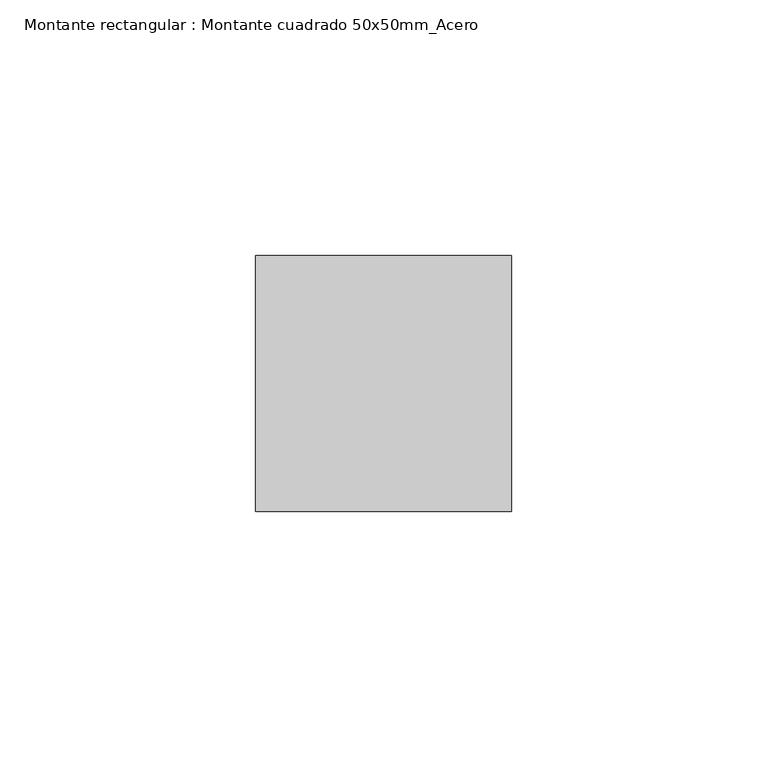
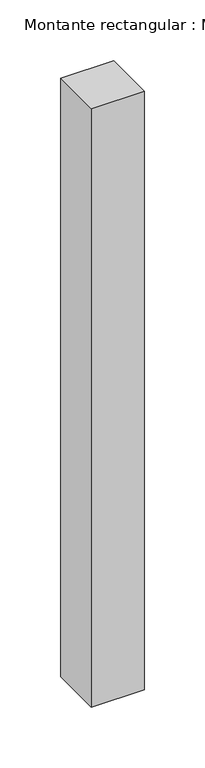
"""IFC4 building model written with IfcOpenShell, lengths in millimetres: member geometry, Montante rectangular : Montante cuadrado 50x50mm_Acero."""

import ifcopenshell
import ifcopenshell.guid

model = None  # the IFC model being written
_history = None  # IfcOwnerHistory: only IFC2X3 demands one
_inside = {}  # id of a spatial element -> (the spatial element, [elements in it])
_under = {}  # id of a project, library or spatial element -> (it, [spatial elements below it])
_declared = {}  # id of a project -> (the project, [libraries it declares])
_typed = {}  # id of a type object -> (the type object, [elements of that type])
_made_of = {}  # id of a material, layer set ... -> (it, [elements and type objects made of it])


def new_model(schema):
    """Start an empty IFC model of exactly this schema.

    Asked for "IFC4X3", IfcOpenShell would pick the latest addendum, in which some entities
    have other attributes; the version numbers below select the first issue.
    IFC2X3 requires an IfcOwnerHistory on every rooted entity: one is made here for all.
    """
    global model, _history
    if schema == "IFC4X3":
        model = ifcopenshell.file(schema_version=(4, 3, 0, 0))
    else:
        model = ifcopenshell.file(schema=schema)
    _inside.clear()
    _under.clear()
    _declared.clear()
    _typed.clear()
    _made_of.clear()
    _history = None
    if model.schema == "IFC2X3":
        org = make("IfcOrganization", Name="unknown")
        user = make(
            "IfcPersonAndOrganization",
            ThePerson=make("IfcPerson", FamilyName="unknown"),
            TheOrganization=org,
        )
        app = make(
            "IfcApplication",
            ApplicationDeveloper=org,
            Version="unknown",
            ApplicationFullName="unknown",
            ApplicationIdentifier="unknown",
        )
        _history = make(
            "IfcOwnerHistory",
            OwningUser=user,
            OwningApplication=app,
            ChangeAction="ADDED",
            CreationDate=0,
        )
    return model


def make(cls, **values):
    """One entity of the class cls with the attributes given. An attribute that is None is left unset."""
    return model.create_entity(
        cls, **{name: value for name, value in values.items() if value is not None}
    )


def rooted(cls, **values):
    """An entity with a GlobalId (a new one), such as an element, a storey or a relation."""
    return make(cls, GlobalId=ifcopenshell.guid.new(), OwnerHistory=_history, **values)


def si_unit(unit_type, name, prefix=None):
    """IfcSIUnit, for example si_unit("LENGTHUNIT", "METRE", prefix="MILLI")."""
    return make("IfcSIUnit", UnitType=unit_type, Prefix=prefix, Name=name)


def assignment(units):
    """IfcUnitAssignment: the units of a project."""
    return None if units is None else make("IfcUnitAssignment", Units=units)


def point(xyz):
    """IfcCartesianPoint."""
    return None if xyz is None else make("IfcCartesianPoint", Coordinates=xyz)


def direction(xyz):
    """IfcDirection."""
    return None if xyz is None else make("IfcDirection", DirectionRatios=xyz)


def frame(location, z_axis=None, x_axis=None):
    """IfcAxis2Placement3D, a coordinate frame: its origin and axes. An axis left out is left unset."""
    return make(
        "IfcAxis2Placement3D",
        Location=point(location),
        Axis=direction(z_axis),
        RefDirection=direction(x_axis),
    )


def origin():
    """The frame at (0, 0, 0) with its axes left unset."""
    return frame((0.0, 0.0, 0.0))


def place(relative_to, where):
    """IfcLocalPlacement: puts the frame where relative to a parent placement (None: the world)."""
    return make(
        "IfcLocalPlacement", PlacementRelTo=relative_to, RelativePlacement=where
    )


def context(
    kind, dimensions, precision=None, world=None, true_north=None, identifier=None
):
    """IfcGeometricRepresentationContext, for example the 3D "Model" context."""
    return make(
        "IfcGeometricRepresentationContext",
        ContextIdentifier=identifier,
        ContextType=kind,
        CoordinateSpaceDimension=dimensions,
        Precision=precision,
        WorldCoordinateSystem=world,
        TrueNorth=true_north,
    )


def project(units=None, contexts=None):
    """IfcProject with its units and contexts."""
    return rooted(
        "IfcProject",
        Name="project",
        RepresentationContexts=contexts,
        UnitsInContext=assignment(units),
    )


def spatial(cls, under=None, at=None, **own):
    """A site, building, storey or space (cls), placed at a placement, below another one or the project."""
    s = rooted(cls, ObjectPlacement=at, **own)
    if under is not None:
        _under.setdefault(under.id(), (under, []))[1].append(s)
    return s


def polyline(points):
    """IfcPolyline through the points."""
    return make("IfcPolyline", Points=[point(p) for p in points])


def outline(outer, holes=None, kind="AREA"):
    """IfcArbitraryClosedProfileDef: a profile drawn as a closed curve; with holes, ...WithVoids."""
    if holes is None:
        return make("IfcArbitraryClosedProfileDef", ProfileType=kind, OuterCurve=outer)
    return make(
        "IfcArbitraryProfileDefWithVoids",
        ProfileType=kind,
        OuterCurve=outer,
        InnerCurves=holes,
    )


def extrude(swept, where, along, depth):
    """IfcExtrudedAreaSolid: the profile swept, set in the frame where, extruded along a direction by depth."""
    return make(
        "IfcExtrudedAreaSolid",
        SweptArea=swept,
        Position=where,
        ExtrudedDirection=direction(along),
        Depth=depth,
    )


def shape(context_of_items, identifier, shape_type, items):
    """IfcShapeRepresentation: the items that make up one representation, for example the "Body"."""
    return make(
        "IfcShapeRepresentation",
        ContextOfItems=context_of_items,
        RepresentationIdentifier=identifier,
        RepresentationType=shape_type,
        Items=items,
    )


def source(mapping_origin, context_of_items, identifier, shape_type, items):
    """IfcRepresentationMap: a shape defined once, which mapped items show again and again."""
    return make(
        "IfcRepresentationMap",
        MappingOrigin=mapping_origin,
        MappedRepresentation=shape(context_of_items, identifier, shape_type, items),
    )


def transform(
    local_origin,
    x_axis=None,
    y_axis=None,
    z_axis=None,
    scale=None,
    scale2=None,
    scale3=None,
    uniform=True,
):
    """IfcCartesianTransformationOperator3D, or its non-uniform kind. x_axis, y_axis, z_axis: its Axis1, 2, 3."""
    if uniform:
        return make(
            "IfcCartesianTransformationOperator3D",
            Axis1=direction(x_axis),
            Axis2=direction(y_axis),
            LocalOrigin=point(local_origin),
            Scale=scale,
            Axis3=direction(z_axis),
        )
    return make(
        "IfcCartesianTransformationOperator3DnonUniform",
        Axis1=direction(x_axis),
        Axis2=direction(y_axis),
        LocalOrigin=point(local_origin),
        Scale=scale,
        Axis3=direction(z_axis),
        Scale2=scale2,
        Scale3=scale3,
    )


def mapped(mapping_source, mapping_target):
    """IfcMappedItem: shows the shape of a source again, moved by a transform."""
    return make(
        "IfcMappedItem", MappingSource=mapping_source, MappingTarget=mapping_target
    )


def made_of(thing, what):
    """Note that an element or type object is made of a material, layer set ...; save() writes the relation."""
    if what is not None:
        _made_of.setdefault(what.id(), (what, []))[1].append(thing)
    return thing


def element(
    cls,
    number,
    at=None,
    inside=None,
    cuts=None,
    type_object=None,
    material=None,
    context=None,
    identifier="Body",
    shape_type=None,
    held_by="IfcProductDefinitionShape",
    body=None,
    shapes=None,
    **own,
):
    """One element of the class cls, such as IfcWall. Its Tag is "e" and its number.

    at: its placement. inside: the storey or other place that contains it. cuts: it is an
    opening in that element (IfcRelVoidsElement). A single representation is given by context,
    identifier, shape_type and body (its items); several are given by shapes. held_by: the class
    of the entity that holds the representations. save() writes the other relations.
    """
    e = rooted(cls, Tag="e%d" % number, ObjectPlacement=at, **own)
    if body is not None:
        shapes = [shape(context, identifier, shape_type, body)]
    if shapes is not None:
        e.Representation = make(held_by, Representations=shapes)
    if inside is not None:
        _inside.setdefault(inside.id(), (inside, []))[1].append(e)
    if cuts is not None:
        rooted(
            "IfcRelVoidsElement", RelatingBuildingElement=cuts, RelatedOpeningElement=e
        )
    if type_object is not None:
        _typed.setdefault(type_object.id(), (type_object, []))[1].append(e)
    return made_of(e, material)


def aggregate(whole, parts):
    """IfcRelAggregates: a whole, such as a stair, and the parts it consists of."""
    return rooted("IfcRelAggregates", RelatingObject=whole, RelatedObjects=parts)


def save(model, path):
    """Write the relations noted so far, then the file.

    IfcRelAggregates (storeys below a building ...), IfcRelContainedInSpatialStructure (elements
    in a storey), IfcRelDefinesByType, IfcRelAssociatesMaterial and IfcRelDeclares: one each for
    every whole, place, type object, material and project.
    """
    for whole, parts in _under.values():
        aggregate(whole, parts)
    for where, things in _inside.values():
        rooted(
            "IfcRelContainedInSpatialStructure",
            RelatedElements=things,
            RelatingStructure=where,
        )
    for kind, things in _typed.values():
        rooted("IfcRelDefinesByType", RelatedObjects=things, RelatingType=kind)
    for what, things in _made_of.values():
        rooted("IfcRelAssociatesMaterial", RelatedObjects=things, RelatingMaterial=what)
    for by, libraries in _declared.values():
        rooted("IfcRelDeclares", RelatingContext=by, RelatedDefinitions=libraries)
    model.write(path)


def montante_rectangular_montante_cuadrado_50x50mm_acero_8aa112a8(model_context):
    return source(origin(), model_context, "Body", "SweptSolid", [
        extrude(outline(polyline([(0.0, 0.0), (0.0, -50.0), (-50.0, -50.0), (-50.0, 0.0), (0.0, 0.0)])), frame((0.0, 0.0, -600.0), z_axis=(0.0, 0.0, 1.0), x_axis=(1.0, 0.0, 0.0)), (0.0, 0.0, 1.0), 600.0),
    ])


if __name__ == "__main__":
    model = new_model("IFC4")
    model_context = context("Model", 3, world=origin())
    ifc_project = project(units=[si_unit("LENGTHUNIT", "METRE", prefix="MILLI")], contexts=[model_context])
    site = spatial("IfcSite", under=ifc_project)
    building = spatial("IfcBuilding", under=site)
    placement = place(None, origin())
    montante_rectangular_montante_cuadrado_50x50mm_acero_shape = montante_rectangular_montante_cuadrado_50x50mm_acero_8aa112a8(model_context)
    element("IfcMember", 1, ObjectType="Montante rectangular : Montante cuadrado 50x50mm_Acero", at=placement, inside=building, context=model_context, shape_type="MappedRepresentation", body=[
        mapped(montante_rectangular_montante_cuadrado_50x50mm_acero_shape, transform((0.0, 0.0, 0.0), x_axis=(1.0, 0.0, 0.0), y_axis=(0.0, 1.0, 0.0), z_axis=(0.0, 0.0, 1.0))),
    ])
    save(model, "model.ifc")
